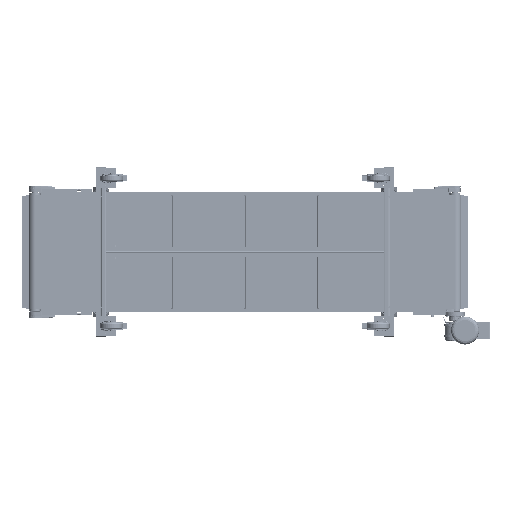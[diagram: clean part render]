
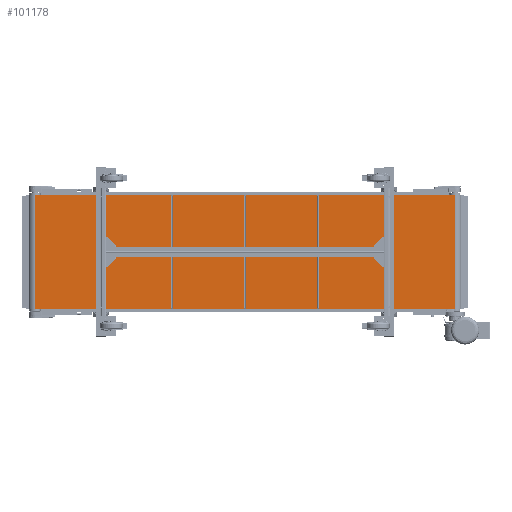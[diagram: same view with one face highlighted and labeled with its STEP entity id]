
A CAD part, front view. The second image highlights one B-rep face of the part: STEP entity #101178.
In plain terms, the highlighted planar face has unit normal (0, -1, 0).
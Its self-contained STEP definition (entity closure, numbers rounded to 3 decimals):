
#501 = CARTESIAN_POINT ( 'NONE',  ( -925., -27., 250. ) ) ;
#717 = VECTOR ( 'NONE', #93259, 1000. ) ;
#1378 = DIRECTION ( 'NONE',  ( 0., 0., 1. ) ) ;
#15427 = LINE ( 'NONE', #501, #53234 ) ;
#20809 = CARTESIAN_POINT ( 'NONE',  ( -925., -27., 250. ) ) ;
#21065 = LINE ( 'NONE', #126520, #717 ) ;
#29170 = AXIS2_PLACEMENT_3D ( 'NONE', #20809, #213298, #1378 ) ;
#31810 = CARTESIAN_POINT ( 'NONE',  ( -925., -27., 250. ) ) ;
#51270 = EDGE_CURVE ( 'NONE', #199015, #98069, #219840, .T. ) ;
#53234 = VECTOR ( 'NONE', #68181, 1000. ) ;
#56923 = DIRECTION ( 'NONE',  ( 0., 0., -1. ) ) ;
#62209 = EDGE_CURVE ( 'NONE', #216502, #98069, #213865, .T. ) ;
#68181 = DIRECTION ( 'NONE',  ( 0., 0., -1. ) ) ;
#72008 = EDGE_CURVE ( 'NONE', #187805, #199015, #15427, .T. ) ;
#75235 = CARTESIAN_POINT ( 'NONE',  ( 925., -27., 250. ) ) ;
#93259 = DIRECTION ( 'NONE',  ( 1., 0., 0. ) ) ;
#94937 = CARTESIAN_POINT ( 'NONE',  ( 925., -27., 250. ) ) ;
#97170 = ORIENTED_EDGE ( 'NONE', *, *, #51270, .T. ) ;
#98069 = VERTEX_POINT ( 'NONE', #190677 ) ;
#101178 = ADVANCED_FACE ( 'NONE', ( #194944 ), #159454, .F. ) ;
#126520 = CARTESIAN_POINT ( 'NONE',  ( -925., -27., 250. ) ) ;
#131008 = EDGE_CURVE ( 'NONE', #187805, #216502, #21065, .T. ) ;
#136512 = ORIENTED_EDGE ( 'NONE', *, *, #62209, .F. ) ;
#157268 = CARTESIAN_POINT ( 'NONE',  ( -925., -27., -250. ) ) ;
#159454 = PLANE ( 'NONE',  #29170 ) ;
#165253 = ORIENTED_EDGE ( 'NONE', *, *, #72008, .T. ) ;
#166021 = CARTESIAN_POINT ( 'NONE',  ( -925., -27., -250. ) ) ;
#168573 = EDGE_LOOP ( 'NONE', ( #97170, #136512, #204025, #165253 ) ) ;
#187805 = VERTEX_POINT ( 'NONE', #31810 ) ;
#190677 = CARTESIAN_POINT ( 'NONE',  ( 925., -27., -250. ) ) ;
#192765 = VECTOR ( 'NONE', #202616, 1000. ) ;
#194944 = FACE_OUTER_BOUND ( 'NONE', #168573, .T. ) ;
#199015 = VERTEX_POINT ( 'NONE', #157268 ) ;
#202616 = DIRECTION ( 'NONE',  ( 1., 0., 0. ) ) ;
#204025 = ORIENTED_EDGE ( 'NONE', *, *, #131008, .F. ) ;
#213298 = DIRECTION ( 'NONE',  ( 0., 1., 0. ) ) ;
#213865 = LINE ( 'NONE', #75235, #215331 ) ;
#215331 = VECTOR ( 'NONE', #56923, 1000. ) ;
#216502 = VERTEX_POINT ( 'NONE', #94937 ) ;
#219840 = LINE ( 'NONE', #166021, #192765 ) ;
